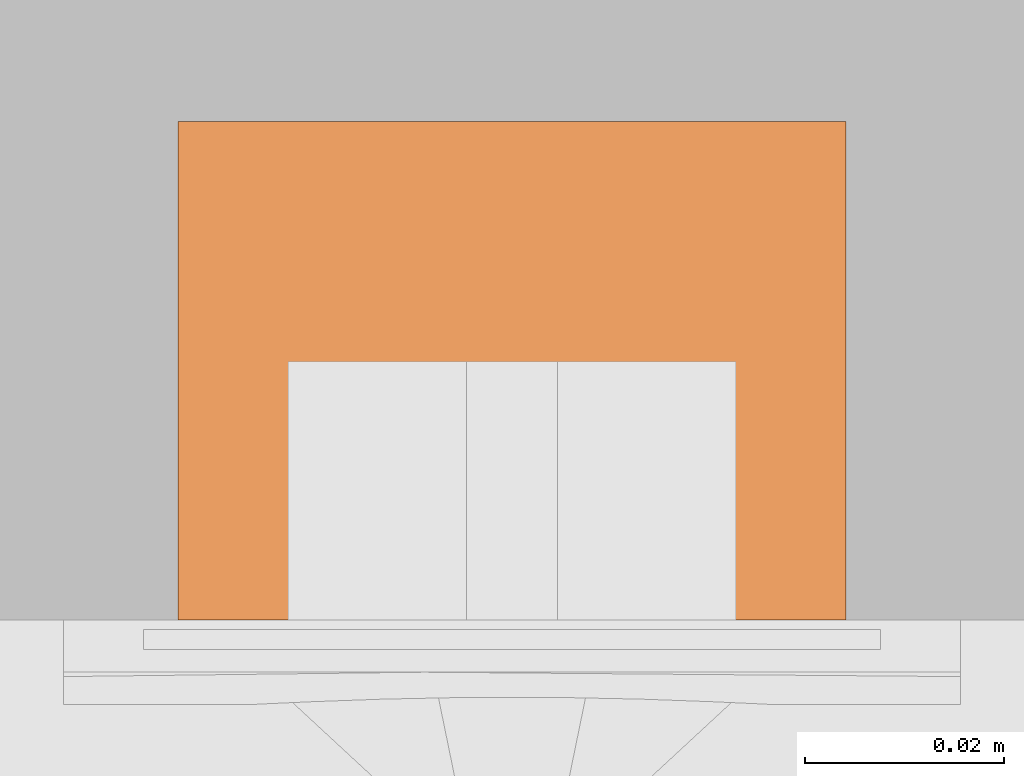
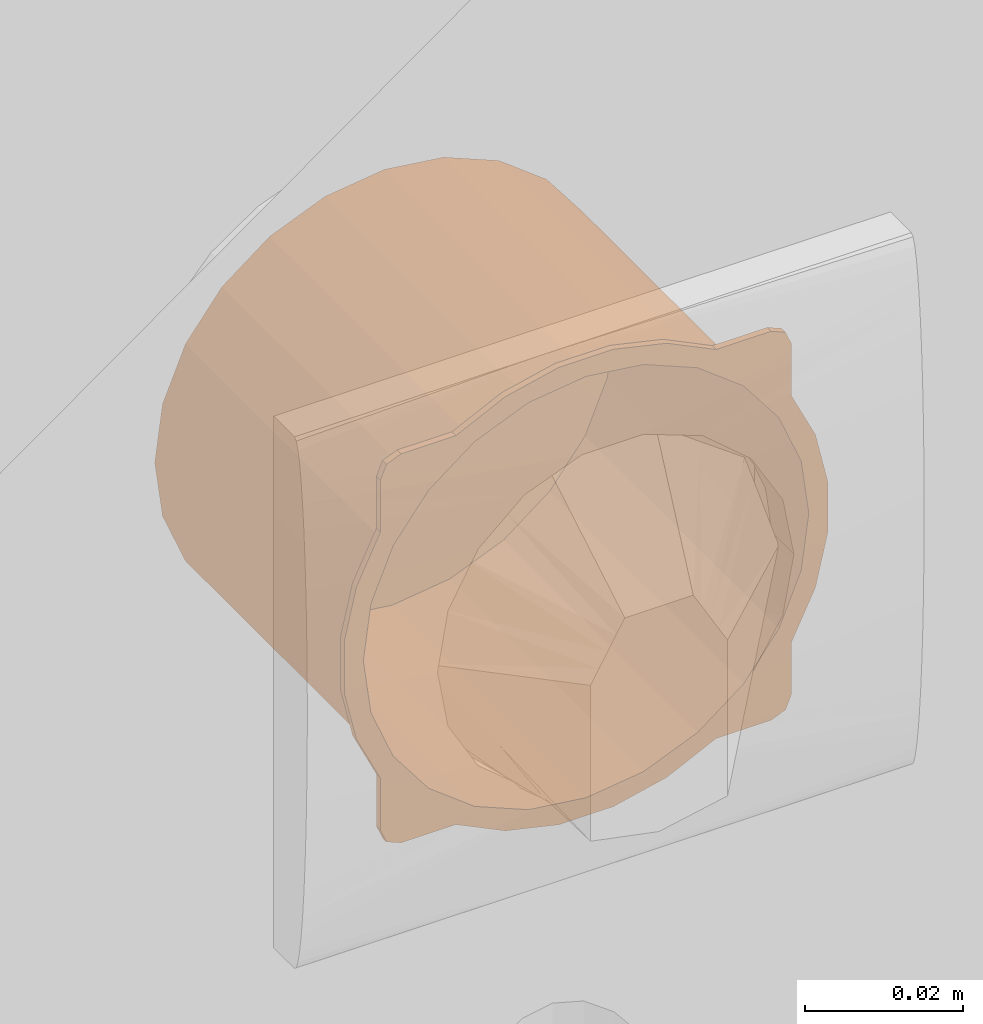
# One storey, part 31 of 32: 1 proxy.
"""IFC2X3 building model written with IfcOpenShell, lengths in metres."""

from ifc_helpers import new_model, entity, si_unit, converted_unit, derived_unit, direction, frame, origin, place, context, subcontext, project, spatial, faceted_brep, source, transform, mapped, material, type_object, type_shapes, element, save


model = new_model("IFC2X3")

# Units and contexts
model_context = context("Model", 3, precision=1e-05, world=origin(), true_north=direction((6.123031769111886e-17, 1.0)))
body_context = subcontext(model_context, "Body", "Model", "MODEL_VIEW")
ifc_project = project(units=[si_unit("LENGTHUNIT", "METRE"), si_unit("AREAUNIT", "SQUARE_METRE"), si_unit("VOLUMEUNIT", "CUBIC_METRE"), converted_unit("PLANEANGLEUNIT", "DEGREE", entity("IfcPlaneAngleMeasure", 0.017453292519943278), si_unit("PLANEANGLEUNIT", "RADIAN"), dimensions=[0, 0, 0, 0, 0, 0, 0]), si_unit("MASSUNIT", "GRAM", prefix="KILO"), derived_unit("MASSDENSITYUNIT", [(si_unit("MASSUNIT", "GRAM", prefix="KILO"), 1), (si_unit("LENGTHUNIT", "METRE"), -3)]), derived_unit("IONCONCENTRATIONUNIT", [(si_unit("MASSUNIT", "GRAM", prefix="KILO"), 1), (si_unit("LENGTHUNIT", "METRE"), -3)]), derived_unit("MOMENTOFINERTIAUNIT", [(si_unit("LENGTHUNIT", "METRE"), 4)]), si_unit("TIMEUNIT", "SECOND"), si_unit("FREQUENCYUNIT", "HERTZ"), si_unit("THERMODYNAMICTEMPERATUREUNIT", "DEGREE_CELSIUS"), derived_unit("THERMALTRANSMITTANCEUNIT", [(si_unit("MASSUNIT", "GRAM", prefix="KILO"), 1), (si_unit("THERMODYNAMICTEMPERATUREUNIT", "KELVIN"), -1), (si_unit("TIMEUNIT", "SECOND"), -3)]), derived_unit("THERMALCONDUCTANCEUNIT", [(si_unit("MASSUNIT", "GRAM", prefix="KILO"), 1), (si_unit("THERMODYNAMICTEMPERATUREUNIT", "KELVIN"), -1), (si_unit("TIMEUNIT", "SECOND"), -3), (si_unit("LENGTHUNIT", "METRE"), 1)]), derived_unit("VOLUMETRICFLOWRATEUNIT", [(si_unit("LENGTHUNIT", "METRE", prefix="DECI"), 3), (si_unit("TIMEUNIT", "SECOND"), -1)]), derived_unit("MASSFLOWRATEUNIT", [(si_unit("MASSUNIT", "GRAM", prefix="KILO"), 1), (si_unit("TIMEUNIT", "SECOND"), -1)]), derived_unit("ROTATIONALFREQUENCYUNIT", [(si_unit("TIMEUNIT", "SECOND"), -1)]), si_unit("ELECTRICCURRENTUNIT", "AMPERE"), si_unit("ELECTRICVOLTAGEUNIT", "VOLT"), si_unit("POWERUNIT", "WATT"), si_unit("FORCEUNIT", "NEWTON", prefix="KILO"), si_unit("ILLUMINANCEUNIT", "LUX"), si_unit("LUMINOUSFLUXUNIT", "LUMEN"), si_unit("LUMINOUSINTENSITYUNIT", "CANDELA"), si_unit("ENERGYUNIT", "JOULE"), derived_unit("USERDEFINED", [(si_unit("MASSUNIT", "GRAM", prefix="KILO"), -1), (si_unit("LENGTHUNIT", "METRE"), -2), (si_unit("TIMEUNIT", "SECOND"), 3), (si_unit("LUMINOUSFLUXUNIT", "LUMEN"), 1)]), derived_unit("USERDEFINED", [(si_unit("MASSUNIT", "GRAM", prefix="KILO"), 1), (si_unit("TIMEUNIT", "SECOND"), -3), (si_unit("LENGTHUNIT", "METRE"), 3), (si_unit("ELECTRICCURRENTUNIT", "AMPERE"), -2)]), derived_unit("SOUNDPOWERUNIT", [(si_unit("MASSUNIT", "GRAM", prefix="KILO"), 1), (si_unit("TIMEUNIT", "SECOND"), -3), (si_unit("LENGTHUNIT", "METRE"), 2)]), derived_unit("SOUNDPRESSUREUNIT", [(si_unit("MASSUNIT", "GRAM", prefix="KILO"), 1), (si_unit("LENGTHUNIT", "METRE"), -1), (si_unit("TIMEUNIT", "SECOND"), -2)]), derived_unit("LINEARVELOCITYUNIT", [(si_unit("LENGTHUNIT", "METRE"), 1), (si_unit("TIMEUNIT", "SECOND"), -1)]), si_unit("PRESSUREUNIT", "PASCAL"), derived_unit("USERDEFINED", [(si_unit("MASSUNIT", "GRAM", prefix="KILO"), 1), (si_unit("LENGTHUNIT", "METRE"), -2), (si_unit("TIMEUNIT", "SECOND"), -2)]), derived_unit("LINEARFORCEUNIT", [(si_unit("MASSUNIT", "GRAM", prefix="KILO"), 1), (si_unit("TIMEUNIT", "SECOND"), -2)]), derived_unit("PLANARFORCEUNIT", [(si_unit("MASSUNIT", "GRAM", prefix="KILO"), 1), (si_unit("LENGTHUNIT", "METRE"), -1), (si_unit("TIMEUNIT", "SECOND"), -2)]), derived_unit("SPECIFICHEATCAPACITYUNIT", [(si_unit("THERMODYNAMICTEMPERATUREUNIT", "KELVIN"), -1), (si_unit("LENGTHUNIT", "METRE"), 2), (si_unit("TIMEUNIT", "SECOND"), -2)]), derived_unit("HEATFLUXDENSITYUNIT", [(si_unit("MASSUNIT", "GRAM", prefix="KILO"), 1), (si_unit("TIMEUNIT", "SECOND"), -3)]), derived_unit("HEATINGVALUEUNIT", [(si_unit("LENGTHUNIT", "METRE"), 2), (si_unit("TIMEUNIT", "SECOND"), -2)]), derived_unit("VAPORPERMEABILITYUNIT", [(si_unit("LENGTHUNIT", "METRE"), -1), (si_unit("TIMEUNIT", "SECOND"), 1)]), derived_unit("DYNAMICVISCOSITYUNIT", [(si_unit("MASSUNIT", "GRAM", prefix="KILO"), 1), (si_unit("TIMEUNIT", "SECOND"), -1), (si_unit("LENGTHUNIT", "METRE"), -1)]), derived_unit("THERMALEXPANSIONCOEFFICIENTUNIT", [(si_unit("THERMODYNAMICTEMPERATUREUNIT", "KELVIN"), -1)]), derived_unit("MODULUSOFELASTICITYUNIT", [(si_unit("MASSUNIT", "GRAM", prefix="KILO"), 1), (si_unit("LENGTHUNIT", "METRE"), -1), (si_unit("TIMEUNIT", "SECOND"), -2)]), derived_unit("ISOTHERMALMOISTURECAPACITYUNIT", [(si_unit("MASSUNIT", "GRAM", prefix="KILO"), -1), (si_unit("LENGTHUNIT", "METRE"), 3)]), derived_unit("MOISTUREDIFFUSIVITYUNIT", [(si_unit("TIMEUNIT", "SECOND"), -1), (si_unit("LENGTHUNIT", "METRE"), 2)]), derived_unit("MASSPERLENGTHUNIT", [(si_unit("MASSUNIT", "GRAM", prefix="KILO"), 1), (si_unit("LENGTHUNIT", "METRE"), -1)]), derived_unit("THERMALRESISTANCEUNIT", [(si_unit("MASSUNIT", "GRAM", prefix="KILO"), -1), (si_unit("TIMEUNIT", "SECOND"), 3), (si_unit("THERMODYNAMICTEMPERATUREUNIT", "KELVIN"), 1)]), derived_unit("ACCELERATIONUNIT", [(si_unit("LENGTHUNIT", "METRE"), 1), (si_unit("TIMEUNIT", "SECOND"), -2)]), derived_unit("ANGULARVELOCITYUNIT", [(si_unit("TIMEUNIT", "SECOND"), -1), (si_unit("PLANEANGLEUNIT", "RADIAN"), 1)]), derived_unit("LINEARSTIFFNESSUNIT", [(si_unit("MASSUNIT", "GRAM", prefix="KILO"), 1), (si_unit("TIMEUNIT", "SECOND"), -2)]), derived_unit("WARPINGCONSTANTUNIT", [(si_unit("LENGTHUNIT", "METRE"), 6)]), derived_unit("LINEARMOMENTUNIT", [(si_unit("MASSUNIT", "GRAM", prefix="KILO"), 1), (si_unit("LENGTHUNIT", "METRE"), 1), (si_unit("TIMEUNIT", "SECOND"), -2)]), derived_unit("TORQUEUNIT", [(si_unit("MASSUNIT", "GRAM", prefix="KILO"), 1), (si_unit("LENGTHUNIT", "METRE"), 2), (si_unit("TIMEUNIT", "SECOND"), -2)])], contexts=[model_context])

# Site, building, storey
site_placement = place(None, origin())
site = spatial("IfcSite", under=ifc_project, at=site_placement, Name="Default", CompositionType="ELEMENT")
building_placement = place(site_placement, origin())
building = spatial("IfcBuilding", under=site, at=building_placement, CompositionType="ELEMENT")
storey_placement = place(building_placement, origin())
storey = spatial("IfcBuildingStorey", under=building, at=storey_placement, Name="Niveau 0", CompositionType="ELEMENT", Elevation=-1.949160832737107e-14)

# Proxy
ifc_material = material(Name="Plastique orange")
building_element_proxy_type = type_object("IfcBuildingElementProxyType", Name="Legrand Boite encastrement batibox 1 poste1:1 poste", PredefinedType="NOTDEFINED", material=ifc_material)
shared_shape = source(origin(), body_context, "Body", "Brep", [
    faceted_brep([(0.141749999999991, 0.1005, -1.7942243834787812), (0.1439802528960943, 0.1005, -1.7952125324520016), (0.1486880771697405, 0.1005, -1.788900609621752), (0.1403837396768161, 0.1005, -1.7969555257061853), (0.13678722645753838, 0.1005, -1.7986985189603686), (0.13367043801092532, 0.1005, -1.7975710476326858), (0.13289192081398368, 0.1005, -1.799592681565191), (0.12899661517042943, 0.1005, -1.8004868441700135), (0.12499999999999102, 0.1005, -1.798712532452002), (0.12499999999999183, 0.1005, -1.8004868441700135), (0.1210033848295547, 0.1005, -1.8004868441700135), (0.11632956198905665, 0.1005, -1.7975710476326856), (0.11710807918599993, 0.1005, -1.799592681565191), (0.11321277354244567, 0.1005, -1.798698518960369), (0.10824999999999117, 0.1005, -1.7942243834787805), (0.10893878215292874, 0.1005, -1.7966271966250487), (0.10601974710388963, 0.1005, -1.7952125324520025), (0.10131192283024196, 0.1005, -1.788900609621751), (0.09799999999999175, 0.1005, -1.7952125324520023), (0.09499999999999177, 0.1005, -1.7922125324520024), (0.09499999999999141, 0.1005, -1.7841927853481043), (0.0959881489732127, 0.1005, -1.7819625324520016), (0.09325700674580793, 0.1005, -1.7805962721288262), (0.09151401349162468, 0.1005, -1.7769997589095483), (0.09264148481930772, 0.1005, -1.7738829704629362), (0.09061985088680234, 0.1005, -1.7731044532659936), (0.08972568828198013, 0.1005, -1.7692091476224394), (0.09149999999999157, 0.1005, -1.7652125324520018), (0.08972568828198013, 0.1005, -1.765212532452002), (0.08972568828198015, 0.1005, -1.7612159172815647), (0.09264148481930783, 0.1005, -1.7565420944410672), (0.09061985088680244, 0.1005, -1.7573206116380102), (0.09151401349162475, 0.1005, -1.7534253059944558), (0.09598814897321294, 0.1005, -1.7484625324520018), (0.09358533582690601, 0.1005, -1.7491513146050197), (0.09499999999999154, 0.1005, -1.7462322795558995), (0.10131192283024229, 0.1005, -1.7415244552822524), (0.0949999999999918, 0.1005, -1.738212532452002), (0.0979999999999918, 0.1005, -1.735212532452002), (0.10601974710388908, 0.1005, -1.735212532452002), (0.10824999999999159, 0.1005, -1.7362006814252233), (0.10961626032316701, 0.1005, -1.7334695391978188), (0.11321277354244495, 0.1005, -1.7317265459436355), (0.11632956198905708, 0.1005, -1.7328540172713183), (0.11710807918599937, 0.1005, -1.7308323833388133), (0.12100338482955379, 0.1005, -1.7299382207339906), (0.12499999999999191, 0.1005, -1.731712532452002), (0.1249999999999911, 0.1005, -1.7299382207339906), (0.1289966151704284, 0.1005, -1.7299382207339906), (0.13367043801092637, 0.1005, -1.7328540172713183), (0.13289192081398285, 0.1005, -1.730832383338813), (0.1367872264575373, 0.1005, -1.7317265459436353), (0.14174999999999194, 0.1005, -1.7362006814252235), (0.1410612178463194, 0.1005, -1.7337978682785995), (0.14398025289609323, 0.1005, -1.7352125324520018), (0.14868807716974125, 0.1005, -1.741524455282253), (0.15199999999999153, 0.1005, -1.7352125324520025), (0.1549999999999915, 0.1005, -1.7382125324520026), (0.1549999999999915, 0.1005, -1.7462322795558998), (0.15401185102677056, 0.1005, -1.7484625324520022), (0.15674299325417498, 0.1005, -1.749828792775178), (0.1584859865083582, 0.1005, -1.7534253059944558), (0.15735851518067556, 0.1005, -1.7565420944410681), (0.15938014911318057, 0.1005, -1.7573206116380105), (0.16027431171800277, 0.1005, -1.7612159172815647), (0.15849999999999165, 0.1005, -1.7652125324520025), (0.16027431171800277, 0.1005, -1.7652125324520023), (0.16027431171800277, 0.1005, -1.7692091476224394), (0.15735851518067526, 0.1005, -1.773882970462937), (0.15938014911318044, 0.1005, -1.773104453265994), (0.1584859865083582, 0.1005, -1.7769997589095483), (0.15401185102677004, 0.1005, -1.7819625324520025), (0.1549999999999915, 0.1005, -1.7841927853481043), (0.15641466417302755, 0.1005, -1.7812737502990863), (0.15412132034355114, 0.1005, -1.7360912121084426), (0.09587867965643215, 0.1005, -1.7360912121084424), (0.09587867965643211, 0.1005, -1.7943338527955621), (0.15199999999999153, 0.1005, -1.7952125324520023), (0.15499999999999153, 0.1005, -1.7922125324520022), (0.1541213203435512, 0.1005, -1.794333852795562), (0.1439802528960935, 0.1015, -1.7352125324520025), (0.14798097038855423, 0.1015, -1.7422315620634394), (0.14461548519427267, 0.1015, -1.7396491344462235), (0.15199999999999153, 0.1015, -1.7352125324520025), (0.14124999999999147, 0.1015, -1.737066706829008), (0.14038373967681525, 0.1015, -1.7334695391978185), (0.1549999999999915, 0.1015, -1.7382125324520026), (0.15412132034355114, 0.1015, -1.7360912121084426), (0.1549999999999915, 0.1015, -1.7462322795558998), (0.15056339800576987, 0.1015, -1.7455970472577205), (0.15314582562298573, 0.1015, -1.7489625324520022), (0.1564146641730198, 0.1015, -1.7491513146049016), (0.1584859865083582, 0.1015, -1.7534253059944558), (0.1547692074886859, 0.1015, -1.752881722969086), (0.15639258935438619, 0.1015, -1.7568009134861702), (0.15938014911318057, 0.1015, -1.7573206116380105), (0.16027431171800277, 0.1015, -1.7612159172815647), (0.1569462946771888, 0.1015, -1.761006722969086), (0.15749999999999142, 0.1015, -1.765212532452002), (0.16027431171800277, 0.1015, -1.7652125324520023), (0.16027431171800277, 0.1015, -1.7692091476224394), (0.15694629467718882, 0.1015, -1.769418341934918), (0.15639258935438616, 0.1015, -1.773624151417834), (0.15938014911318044, 0.1015, -1.773104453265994), (0.1584859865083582, 0.1015, -1.7769997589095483), (0.15476920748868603, 0.1015, -1.7775433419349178), (0.15314582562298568, 0.1015, -1.7814625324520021), (0.1567429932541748, 0.1015, -1.7805962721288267), (0.15499999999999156, 0.1015, -1.7841927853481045), (0.1505633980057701, 0.1015, -1.7848280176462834), (0.14798097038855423, 0.1015, -1.788193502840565), (0.15499999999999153, 0.1015, -1.7922125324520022), (0.15199999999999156, 0.1015, -1.7952125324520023), (0.1541213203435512, 0.1015, -1.794333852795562), (0.1439802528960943, 0.1015, -1.7952125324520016), (0.144615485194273, 0.1015, -1.7907759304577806), (0.14124999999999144, 0.1015, -1.7933583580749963), (0.1410612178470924, 0.1015, -1.79662719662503), (0.13678722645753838, 0.1015, -1.7986985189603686), (0.13733080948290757, 0.1015, -1.7949817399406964), (0.13341161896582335, 0.1015, -1.796605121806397), (0.13289192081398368, 0.1015, -1.799592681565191), (0.12899661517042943, 0.1015, -1.8004868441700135), (0.1292058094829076, 0.1015, -1.7971588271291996), (0.12499999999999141, 0.1015, -1.7977125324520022), (0.12499999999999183, 0.1015, -1.8004868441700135), (0.1210033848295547, 0.1015, -1.8004868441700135), (0.12192512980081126, 0.1015, -1.7973077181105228), (0.11658838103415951, 0.1015, -1.796605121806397), (0.11710807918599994, 0.1015, -1.799592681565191), (0.11321277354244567, 0.1015, -1.798698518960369), (0.11266919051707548, 0.1015, -1.7949817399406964), (0.10874999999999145, 0.1015, -1.7933583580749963), (0.10961626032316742, 0.1015, -1.7969555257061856), (0.10601974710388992, 0.1015, -1.7952125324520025), (0.10538451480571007, 0.1015, -1.7907759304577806), (0.10201902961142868, 0.1015, -1.788193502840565), (0.09799999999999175, 0.1015, -1.7952125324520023), (0.09499999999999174, 0.1015, -1.7922125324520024), (0.09587867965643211, 0.1015, -1.7943338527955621), (0.09499999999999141, 0.1015, -1.7841927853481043), (0.09943660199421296, 0.1015, -1.7848280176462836), (0.09685417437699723, 0.1015, -1.7814625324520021), (0.09358533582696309, 0.1015, -1.7812737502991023), (0.09151401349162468, 0.1015, -1.7769997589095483), (0.09523079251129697, 0.1015, -1.777543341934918), (0.09360741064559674, 0.1015, -1.773624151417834), (0.09061985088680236, 0.1015, -1.7731044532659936), (0.08972568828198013, 0.1015, -1.7692091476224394), (0.0930537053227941, 0.1015, -1.7694183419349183), (0.09249999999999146, 0.1015, -1.7652125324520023), (0.08972568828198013, 0.1015, -1.765212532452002), (0.08972568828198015, 0.1015, -1.7612159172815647), (0.09305370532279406, 0.1015, -1.7610067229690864), (0.09360741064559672, 0.1015, -1.7568009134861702), (0.09061985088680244, 0.1015, -1.7573206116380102), (0.09151401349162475, 0.1015, -1.7534253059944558), (0.09523079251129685, 0.1015, -1.7528817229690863), (0.09685417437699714, 0.1015, -1.7489625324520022), (0.09325700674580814, 0.1015, -1.7498287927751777), (0.0949999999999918, 0.1015, -1.7462322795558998), (0.09943660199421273, 0.1015, -1.7455970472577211), (0.10201902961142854, 0.1015, -1.7422315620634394), (0.0949999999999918, 0.1015, -1.738212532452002), (0.0979999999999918, 0.1015, -1.735212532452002), (0.09587867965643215, 0.1015, -1.7360912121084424), (0.10601974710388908, 0.1015, -1.735212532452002), (0.10538451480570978, 0.1015, -1.7396491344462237), (0.10874999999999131, 0.1015, -1.737066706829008), (0.10893878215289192, 0.1015, -1.7337978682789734), (0.11321277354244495, 0.1015, -1.7317265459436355), (0.11266919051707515, 0.1015, -1.7354433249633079), (0.11658838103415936, 0.1015, -1.7338199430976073), (0.11710807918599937, 0.1015, -1.7308323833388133), (0.12100338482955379, 0.1015, -1.7299382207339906), (0.12079419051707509, 0.1015, -1.7332662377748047), (0.12499999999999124, 0.1015, -1.732712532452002), (0.1249999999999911, 0.1015, -1.7299382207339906), (0.1289966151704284, 0.1015, -1.7299382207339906), (0.1280748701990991, 0.1015, -1.7331173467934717), (0.13341161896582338, 0.1015, -1.7338199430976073), (0.13289192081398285, 0.1015, -1.730832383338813), (0.1367872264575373, 0.1015, -1.7317265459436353), (0.13733080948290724, 0.1015, -1.7354433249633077), (0.11658838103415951, 0.1005, -1.796605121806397), (0.12079419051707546, 0.1005, -1.7971588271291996), (0.11658838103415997, 0.05250000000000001, -1.796605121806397), (0.12499999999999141, 0.1005, -1.7977125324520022), (0.12499999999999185, 0.05250000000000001, -1.797712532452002), (0.11658838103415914, 0.1005, -1.7338199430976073), (0.12079419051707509, 0.1005, -1.7332662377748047), (0.11658838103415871, 0.05250000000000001, -1.7338199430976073), (0.12499999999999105, 0.1005, -1.732712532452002), (0.1249999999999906, 0.05250000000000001, -1.732712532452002), (0.11266919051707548, 0.1005, -1.7949817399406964), (0.10874999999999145, 0.1005, -1.7933583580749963), (0.10874999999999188, 0.05250000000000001, -1.7933583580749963), (0.10201902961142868, 0.1005, -1.788193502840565), (0.09943660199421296, 0.1005, -1.7848280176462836), (0.09685417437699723, 0.1005, -1.7814625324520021), (0.10201902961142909, 0.05250000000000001, -1.788193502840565), (0.09685417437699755, 0.05250000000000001, -1.7814625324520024), (0.11266919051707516, 0.10050000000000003, -1.7354433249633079), (0.10874999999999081, 0.05250000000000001, -1.7370667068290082), (0.10874999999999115, 0.1005, -1.737066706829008), (0.10538451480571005, 0.1005, -1.7907759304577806), (0.09523079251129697, 0.1005, -1.777543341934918), (0.09360741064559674, 0.1005, -1.773624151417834), (0.093607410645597, 0.05250000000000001, -1.7736241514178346), (0.09249999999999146, 0.1005, -1.7652125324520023), (0.0930537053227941, 0.1005, -1.7694183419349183), (0.09249999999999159, 0.05250000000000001, -1.7652125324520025), (0.09305370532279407, 0.10050000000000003, -1.7610067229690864), (0.09360741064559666, 0.1005, -1.7568009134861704), (0.09360741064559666, 0.05250000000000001, -1.7568009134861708), (0.09943660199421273, 0.10050000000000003, -1.7455970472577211), (0.09685417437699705, 0.1005, -1.7489625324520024), (0.10201902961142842, 0.1005, -1.7422315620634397), (0.09685417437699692, 0.05250000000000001, -1.7489625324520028), (0.10201902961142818, 0.05250000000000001, -1.7422315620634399), (0.10538451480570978, 0.1005, -1.7396491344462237), (0.09523079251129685, 0.1005, -1.7528817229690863), (0.13341161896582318, 0.1005, -1.7338199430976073), (0.12920580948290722, 0.1005, -1.7332662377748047), (0.13341161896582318, 0.05250000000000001, -1.7338199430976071), (0.13341161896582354, 0.1005, -1.796605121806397), (0.12920580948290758, 0.10050000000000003, -1.7971588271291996), (0.13341161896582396, 0.05250000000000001, -1.7966051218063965), (0.1373308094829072, 0.1005, -1.7354433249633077), (0.14124999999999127, 0.1005, -1.7370667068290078), (0.1412499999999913, 0.05250000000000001, -1.7370667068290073), (0.1479809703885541, 0.1005, -1.742231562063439), (0.15056339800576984, 0.1005, -1.7455970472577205), (0.15314582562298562, 0.1005, -1.748962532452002), (0.14798097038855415, 0.05250000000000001, -1.742231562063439), (0.15314582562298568, 0.05250000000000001, -1.7489625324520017), (0.13733080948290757, 0.1005, -1.7949817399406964), (0.141249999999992, 0.05250000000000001, -1.793358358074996), (0.14124999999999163, 0.1005, -1.793358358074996), (0.1446154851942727, 0.10050000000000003, -1.7396491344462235), (0.1547692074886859, 0.10050000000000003, -1.752881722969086), (0.15639258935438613, 0.1005, -1.7568009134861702), (0.15639258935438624, 0.05250000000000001, -1.7568009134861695), (0.15749999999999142, 0.1005, -1.765212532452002), (0.1569462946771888, 0.10050000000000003, -1.761006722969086), (0.15749999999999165, 0.05250000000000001, -1.7652125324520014), (0.15694629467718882, 0.1005, -1.769418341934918), (0.1563925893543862, 0.1005, -1.773624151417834), (0.15639258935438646, 0.05250000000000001, -1.7736241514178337), (0.1505633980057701, 0.10050000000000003, -1.7848280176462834), (0.15314582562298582, 0.1005, -1.781462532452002), (0.1479809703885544, 0.1005, -1.7881935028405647), (0.1531458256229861, 0.05250000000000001, -1.7814625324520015), (0.14798097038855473, 0.05250000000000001, -1.7881935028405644), (0.14461548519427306, 0.1005, -1.7907759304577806), (0.15476920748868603, 0.1005, -1.7775433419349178), (0.14174999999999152, 0.05050000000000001, -1.7942243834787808), (0.1486880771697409, 0.05050000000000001, -1.7889006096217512), (0.15401185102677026, 0.05050000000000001, -1.781962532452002), (0.1573585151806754, 0.05050000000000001, -1.7738829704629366), (0.15849999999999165, 0.05050000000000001, -1.765212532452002), (0.15735851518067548, 0.05050000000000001, -1.7565420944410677), (0.1540118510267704, 0.05050000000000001, -1.748462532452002), (0.14868807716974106, 0.05050000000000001, -1.7415244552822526), (0.14174999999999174, 0.05050000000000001, -1.7362006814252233), (0.1336704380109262, 0.05050000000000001, -1.7328540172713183), (0.1249999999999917, 0.05050000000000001, -1.731712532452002), (0.11632956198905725, 0.05050000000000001, -1.7328540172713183), (0.1082499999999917, 0.05050000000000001, -1.7362006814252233), (0.10131192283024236, 0.05050000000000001, -1.7415244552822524), (0.09598814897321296, 0.05050000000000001, -1.7484625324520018), (0.09264148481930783, 0.05050000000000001, -1.7565420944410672), (0.09149999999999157, 0.05050000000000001, -1.7652125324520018), (0.09264148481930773, 0.05050000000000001, -1.7738829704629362), (0.09598814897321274, 0.05050000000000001, -1.7819625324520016), (0.10131192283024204, 0.05050000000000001, -1.788900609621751), (0.10824999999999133, 0.05050000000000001, -1.7942243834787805), (0.11632956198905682, 0.05050000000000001, -1.7975710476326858), (0.12499999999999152, 0.05050000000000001, -1.798712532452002), (0.13367043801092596, 0.05050000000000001, -1.7975710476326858), (0.12499999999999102, 0.05250000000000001, -1.798712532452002), (0.12499999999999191, 0.05250000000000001, -1.731712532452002)], [[[0, 1, 2]], [[0, 3, 1]], [[0, 4, 3]], [[0, 5, 4]], [[5, 6, 4]], [[5, 7, 6]], [[8, 7, 5]], [[8, 9, 7]], [[8, 10, 9]], [[10, 8, 11]], [[11, 12, 10]], [[11, 13, 12]], [[14, 13, 11]], [[14, 15, 13]], [[14, 16, 15]], [[17, 16, 14]], [[17, 18, 16]], [[18, 17, 19]], [[19, 17, 20]], [[21, 20, 17]], [[21, 22, 20]], [[21, 23, 22]], [[21, 24, 23]], [[24, 25, 23]], [[24, 26, 25]], [[24, 27, 26]], [[27, 28, 26]], [[27, 29, 28]], [[29, 27, 30]], [[30, 31, 29]], [[30, 32, 31]], [[32, 30, 33]], [[33, 34, 32]], [[33, 35, 34]], [[33, 36, 35]], [[35, 36, 37]], [[38, 37, 36]], [[39, 38, 36]], [[39, 36, 40]], [[40, 41, 39]], [[40, 42, 41]], [[40, 43, 42]], [[43, 44, 42]], [[43, 45, 44]], [[46, 45, 43]], [[46, 47, 45]], [[46, 48, 47]], [[48, 46, 49]], [[49, 50, 48]], [[49, 51, 50]], [[51, 49, 52]], [[52, 53, 51]], [[52, 54, 53]], [[54, 52, 55]], [[56, 54, 55]], [[55, 57, 56]], [[57, 55, 58]], [[59, 58, 55]], [[59, 60, 58]], [[59, 61, 60]], [[62, 61, 59]], [[62, 63, 61]], [[62, 64, 63]], [[62, 65, 64]], [[65, 66, 64]], [[65, 67, 66]], [[67, 65, 68]], [[68, 69, 67]], [[68, 70, 69]], [[70, 68, 71]], [[72, 71, 2]], [[71, 72, 73]], [[71, 73, 70]], [[56, 57, 74]], [[75, 37, 38]], [[18, 19, 76]], [[77, 2, 1]], [[78, 2, 77]], [[77, 79, 78]], [[2, 78, 72]], [[80, 81, 82]], [[83, 81, 80]], [[80, 82, 84]], [[84, 85, 80]], [[86, 81, 83]], [[83, 87, 86]], [[81, 86, 88]], [[88, 89, 81]], [[88, 90, 89]], [[90, 88, 91]], [[90, 91, 92]], [[92, 93, 90]], [[92, 94, 93]], [[94, 92, 95]], [[94, 95, 96]], [[96, 97, 94]], [[96, 98, 97]], [[98, 96, 99]], [[98, 99, 100]], [[100, 101, 98]], [[100, 102, 101]], [[102, 100, 103]], [[102, 103, 104]], [[104, 105, 102]], [[104, 106, 105]], [[106, 104, 107]], [[106, 107, 108]], [[108, 109, 106]], [[108, 110, 109]], [[111, 110, 108]], [[110, 111, 112]], [[112, 111, 113]], [[112, 114, 110]], [[114, 115, 110]], [[114, 116, 115]], [[116, 114, 117]], [[116, 117, 118]], [[118, 119, 116]], [[118, 120, 119]], [[120, 118, 121]], [[120, 121, 122]], [[122, 123, 120]], [[122, 124, 123]], [[124, 122, 125]], [[124, 125, 126]], [[126, 127, 124]], [[126, 128, 127]], [[128, 126, 129]], [[128, 129, 130]], [[130, 131, 128]], [[130, 132, 131]], [[132, 130, 133]], [[132, 133, 134]], [[134, 135, 132]], [[134, 136, 135]], [[134, 137, 136]], [[137, 138, 136]], [[139, 138, 137]], [[140, 136, 138]], [[140, 141, 136]], [[140, 142, 141]], [[142, 140, 143]], [[142, 143, 144]], [[144, 145, 142]], [[144, 146, 145]], [[146, 144, 147]], [[146, 147, 148]], [[148, 149, 146]], [[148, 150, 149]], [[150, 148, 151]], [[150, 151, 152]], [[152, 153, 150]], [[152, 154, 153]], [[154, 152, 155]], [[154, 155, 156]], [[156, 157, 154]], [[156, 158, 157]], [[158, 156, 159]], [[158, 159, 160]], [[160, 161, 158]], [[160, 162, 161]], [[163, 162, 160]], [[164, 162, 163]], [[164, 163, 165]], [[162, 164, 166]], [[166, 167, 162]], [[166, 168, 167]], [[168, 166, 169]], [[168, 169, 170]], [[170, 171, 168]], [[170, 172, 171]], [[172, 170, 173]], [[172, 173, 174]], [[174, 175, 172]], [[174, 176, 175]], [[176, 174, 177]], [[176, 177, 178]], [[178, 179, 176]], [[178, 180, 179]], [[180, 178, 181]], [[180, 181, 182]], [[182, 84, 183]], [[84, 182, 85]], [[182, 183, 180]], [[57, 58, 88, 86]], [[72, 78, 111, 108]], [[57, 86, 87, 74]], [[87, 83, 56, 74]], [[54, 56, 83, 80]], [[38, 39, 166, 164]], [[38, 164, 165, 75]], [[165, 163, 37, 75]], [[35, 37, 163, 160]], [[19, 20, 140, 138]], [[77, 1, 114, 112]], [[16, 18, 137, 134]], [[77, 112, 113, 79]], [[113, 111, 78, 79]], [[19, 138, 139, 76]], [[139, 137, 18, 76]], [[184, 185, 128]], [[186, 185, 184]], [[186, 187, 185]], [[186, 188, 187]], [[185, 187, 127]], [[124, 127, 187]], [[185, 127, 128]], [[189, 172, 175]], [[190, 189, 175]], [[191, 189, 190]], [[175, 176, 190]], [[192, 190, 176]], [[193, 191, 192]], [[191, 190, 192]], [[128, 131, 184]], [[194, 184, 131]], [[131, 132, 194]], [[132, 195, 194]], [[196, 194, 195]], [[196, 186, 184]], [[196, 184, 194]], [[136, 141, 197]], [[198, 197, 141]], [[141, 142, 198]], [[142, 199, 198]], [[200, 198, 199]], [[201, 200, 199]], [[200, 197, 198]], [[172, 189, 202]], [[171, 172, 202]], [[203, 202, 189]], [[191, 203, 189]], [[203, 204, 202]], [[202, 204, 171]], [[168, 171, 204]], [[132, 135, 195]], [[205, 195, 135]], [[135, 136, 205]], [[136, 197, 205]], [[196, 205, 197]], [[197, 200, 196]], [[196, 195, 205]], [[142, 145, 199]], [[206, 199, 145]], [[145, 146, 206]], [[146, 207, 206]], [[201, 206, 207]], [[208, 201, 207]], [[201, 199, 206]], [[209, 210, 150]], [[208, 210, 209]], [[209, 211, 208]], [[208, 207, 210]], [[210, 207, 149]], [[207, 146, 149]], [[149, 150, 210]], [[150, 153, 209]], [[212, 209, 153]], [[153, 154, 212]], [[154, 213, 212]], [[211, 212, 213]], [[211, 213, 214]], [[211, 209, 212]], [[215, 216, 161]], [[161, 162, 215]], [[162, 217, 215]], [[218, 216, 215]], [[218, 215, 217]], [[218, 217, 219]], [[158, 161, 216]], [[168, 204, 220]], [[167, 168, 220]], [[219, 220, 204]], [[204, 203, 219]], [[219, 217, 220]], [[162, 167, 217]], [[220, 217, 167]], [[154, 157, 213]], [[221, 213, 157]], [[157, 158, 221]], [[158, 216, 221]], [[214, 221, 216]], [[218, 214, 216]], [[214, 213, 221]], [[222, 223, 180]], [[193, 223, 222]], [[224, 193, 222]], [[193, 192, 223]], [[223, 192, 179]], [[176, 179, 192]], [[223, 179, 180]], [[225, 120, 123]], [[226, 225, 123]], [[227, 225, 226]], [[123, 124, 226]], [[187, 226, 124]], [[188, 227, 187]], [[227, 226, 187]], [[180, 183, 222]], [[228, 222, 183]], [[183, 84, 228]], [[84, 229, 228]], [[224, 228, 229]], [[224, 229, 230]], [[224, 222, 228]], [[81, 89, 231]], [[232, 231, 89]], [[89, 90, 232]], [[90, 233, 232]], [[234, 232, 233]], [[235, 234, 233]], [[234, 231, 232]], [[120, 225, 236]], [[119, 120, 236]], [[237, 236, 225]], [[227, 237, 225]], [[237, 238, 236]], [[236, 238, 119]], [[116, 119, 238]], [[84, 82, 229]], [[239, 229, 82]], [[82, 81, 239]], [[81, 231, 239]], [[230, 239, 231]], [[231, 234, 230]], [[230, 229, 239]], [[90, 93, 233]], [[240, 233, 93]], [[93, 94, 240]], [[94, 241, 240]], [[235, 240, 241]], [[242, 235, 241]], [[235, 233, 240]], [[243, 244, 98]], [[242, 244, 243]], [[243, 245, 242]], [[242, 241, 244]], [[244, 241, 97]], [[241, 94, 97]], [[97, 98, 244]], [[98, 101, 243]], [[246, 243, 101]], [[101, 102, 246]], [[102, 247, 246]], [[245, 246, 247]], [[245, 247, 248]], [[245, 243, 246]], [[249, 250, 109]], [[109, 110, 249]], [[110, 251, 249]], [[252, 250, 249]], [[252, 249, 251]], [[252, 251, 253]], [[106, 109, 250]], [[116, 238, 254]], [[115, 116, 254]], [[253, 254, 238]], [[238, 237, 253]], [[253, 251, 254]], [[110, 115, 251]], [[254, 251, 115]], [[102, 105, 247]], [[255, 247, 105]], [[105, 106, 255]], [[106, 250, 255]], [[248, 255, 250]], [[252, 248, 250]], [[248, 247, 255]], [[256, 257, 258, 259, 260, 261, 262, 263, 264, 265, 266, 267, 268, 269, 270, 271, 272, 273, 274, 275, 276, 277, 278, 279]], [[280, 8, 5, 279, 278]], [[0, 256, 279, 5]], [[71, 68, 259, 258]], [[257, 2, 71, 258]], [[256, 0, 2, 257]], [[259, 68, 65, 260]], [[59, 262, 261, 62]], [[55, 263, 262, 59]], [[49, 46, 281, 266, 265]], [[55, 52, 264, 263]], [[49, 265, 264, 52]], [[62, 261, 260, 65]], [[281, 46, 43, 267, 266]], [[268, 267, 43, 40]], [[270, 33, 30, 271]], [[269, 36, 33, 270]], [[30, 27, 272, 271]], [[40, 36, 269, 268]], [[21, 274, 273, 24]], [[17, 275, 274, 21]], [[11, 8, 280, 278, 277]], [[17, 14, 276, 275]], [[11, 277, 276, 14]], [[24, 273, 272, 27]], [[230, 234, 235, 242, 245, 248, 252, 253, 237, 227, 188, 186, 196, 200, 201, 208, 211, 214, 218, 219, 203, 191, 193, 224]], [[51, 53, 54, 80, 85, 182]], [[169, 166, 39, 41, 42, 170]], [[182, 181, 178, 48, 50, 51]], [[45, 47, 48, 178, 177, 174]], [[174, 173, 170, 42, 44, 45]], [[32, 34, 35, 160, 159, 156]], [[143, 140, 20, 22, 23, 144]], [[156, 155, 152, 29, 31, 32]], [[26, 28, 29, 152, 151, 148]], [[148, 147, 144, 23, 25, 26]], [[13, 15, 16, 134, 133, 130]], [[117, 114, 1, 3, 4, 118]], [[130, 129, 126, 10, 12, 13]], [[7, 9, 10, 126, 125, 122]], [[122, 121, 118, 4, 6, 7]], [[70, 73, 72, 108, 107, 104]], [[91, 88, 58, 60, 61, 92]], [[104, 103, 100, 67, 69, 70]], [[64, 66, 67, 100, 99, 96]], [[96, 95, 92, 61, 63, 64]]]),
])
type_shapes(building_element_proxy_type, [shared_shape])
proxy_placement = place(storey_placement, frame((-14.451077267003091, 2.969026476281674, 3.815699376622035), z_axis=(0.0, 0.0, 1.0), x_axis=(-1.0, 0.0, 0.0)))
element("IfcBuildingElementProxy", 1, at=proxy_placement, inside=storey, type_object=building_element_proxy_type, material=ifc_material, Name="Legrand Boite encastrement batibox 1 poste1:1 poste", ObjectType="Legrand Boite encastrement batibox 1 poste1:1 poste", context=body_context, shape_type="MappedRepresentation", body=[
    mapped(shared_shape, transform((0.0, 0.0, 0.0), scale=1.0)),
])

save(model, "model.ifc")
